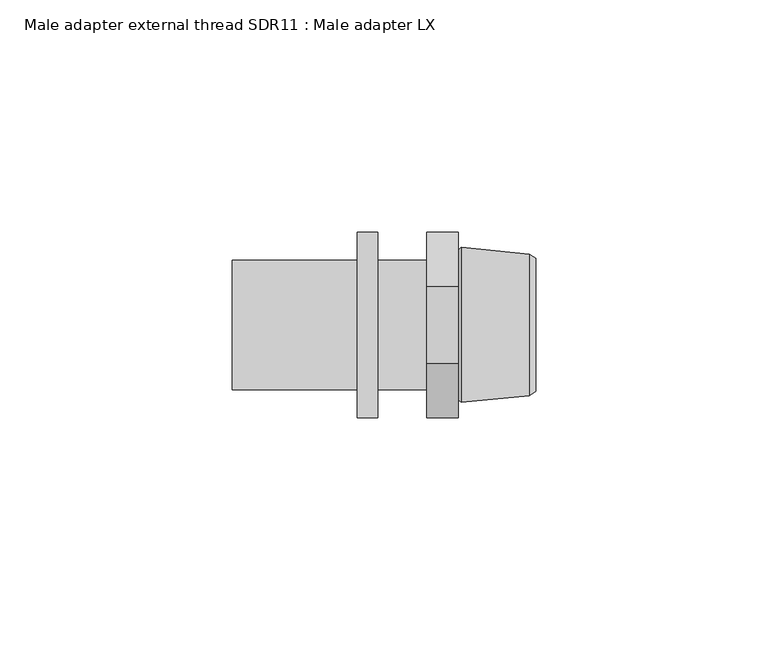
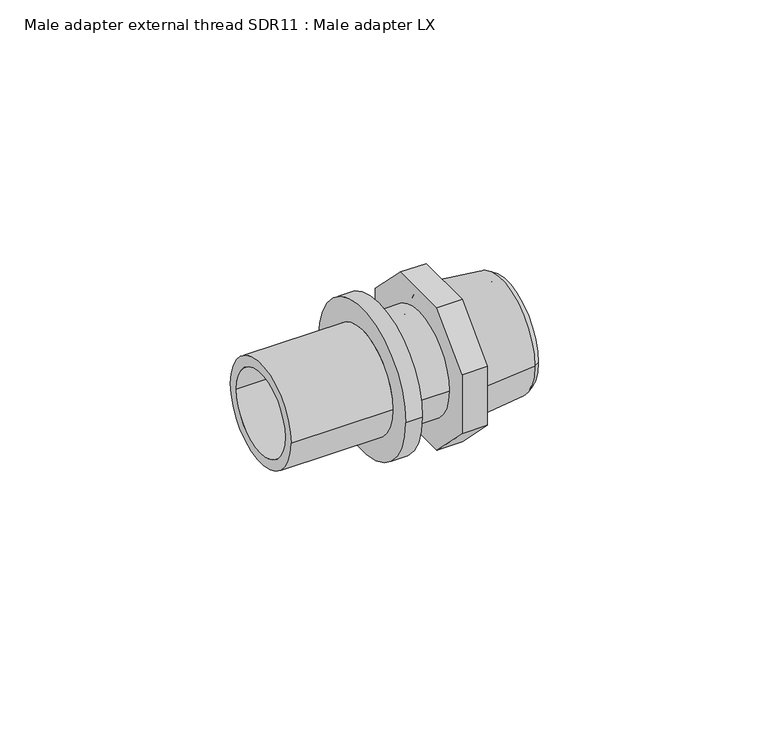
"""IFC4 building model written with IfcOpenShell, lengths in millimetres: pipe fitting geometry, Male adapter external thread SDR11 : Male adapter LX."""

from ifc_helpers import new_model, si_unit, frame, origin, place, context, project, spatial, polyline, circle_curve, outline, extrude, source, transform, mapped, element, save
from ifc_brep_helpers import plane_surface, cylinder_surface, revolved_surface, advanced_brep


def male_adapter_external_thread_sdr11_male_adapter_lx_289b96de(model_context):
    return source(origin(), model_context, "Body", "SolidModel", [
        advanced_brep(
        [(-15.0, 13.95, 0.0), (-15.0, -13.95, 0.0), (-42.0, -13.95, 0.0), (-42.0, 13.95, 0.0), (-10.6, 20.0, 0.0), (-10.6, -20.0, 0.0), (-15.0, -20.0, 0.0), (-15.0, 20.0, 0.0), (0.0, 13.95, 0.0), (0.0, -13.95, 0.0), (-10.6, -13.95, 0.0), (-10.6, 13.95, 0.0), (-42.0, 11.2, 0.0), (-42.0, -11.2, 0.0), (0.0, -11.2, 0.0), (0.0, 11.2, 0.0)],
        [
            (0, 1, circle_curve(frame((-15.0, 0.0, 0.0), z_axis=(-1.0, 0.0, 0.0), x_axis=(0.0, -1.0, 0.0)), 13.95)),
            (1, 2),
            (2, 3, circle_curve(frame((-42.0, 0.0, 0.0), z_axis=(1.0, 0.0, 0.0), x_axis=(0.0, -1.0, 0.0)), 13.95)),
            (3, 0),
            (4, 5, circle_curve(frame((-10.6, 0.0, 0.0), z_axis=(-1.0, 0.0, 0.0), x_axis=(0.0, -1.0, 0.0)), 20.0)),
            (5, 6),
            (6, 7, circle_curve(frame((-15.0, 0.0, 0.0), z_axis=(1.0, 0.0, 0.0), x_axis=(0.0, -1.0, 0.0)), 20.0)),
            (7, 4),
            (8, 9, circle_curve(frame((0.0, 0.0, 0.0), z_axis=(-1.0, 0.0, 0.0), x_axis=(0.0, -1.0, 0.0)), 13.95)),
            (9, 10),
            (10, 11, circle_curve(frame((-10.6, 0.0, 0.0), z_axis=(1.0, 0.0, 0.0), x_axis=(0.0, -1.0, 0.0)), 13.95)),
            (11, 8),
            (12, 13, circle_curve(frame((-42.0, 0.0, 0.0), z_axis=(-1.0, 0.0, 0.0), x_axis=(0.0, -1.0, 0.0)), 11.2)),
            (13, 14),
            (14, 15, circle_curve(frame((0.0, 0.0, 0.0), z_axis=(1.0, 0.0, 0.0), x_axis=(0.0, -1.0, 0.0)), 11.2)),
            (15, 12),
            (2, 3, circle_curve(frame((-42.0, 0.0, 0.0), z_axis=(-1.0, 0.0, 0.0), x_axis=(0.0, 1.0, 0.0)), 13.95)),
            (12, 13, circle_curve(frame((-42.0, 0.0, 0.0), z_axis=(1.0, 0.0, 0.0), x_axis=(0.0, 1.0, 0.0)), 11.2)),
            (1, 0, circle_curve(frame((-15.0, 0.0, 0.0), z_axis=(-1.0, 0.0, 0.0), x_axis=(0.0, 1.0, 0.0)), 13.95)),
            (6, 7, circle_curve(frame((-15.0, 0.0, 0.0), z_axis=(-1.0, 0.0, 0.0), x_axis=(0.0, 1.0, 0.0)), 20.0)),
            (5, 4, circle_curve(frame((-10.6, 0.0, 0.0), z_axis=(-1.0, 0.0, 0.0), x_axis=(0.0, 1.0, 0.0)), 20.0)),
            (10, 11, circle_curve(frame((-10.6, 0.0, 0.0), z_axis=(-1.0, 0.0, 0.0), x_axis=(0.0, 1.0, 0.0)), 13.95)),
            (9, 8, circle_curve(frame((0.0, 0.0, 0.0), z_axis=(-1.0, 0.0, 0.0), x_axis=(0.0, 1.0, 0.0)), 13.95)),
            (14, 15, circle_curve(frame((0.0, 0.0, 0.0), z_axis=(-1.0, 0.0, 0.0), x_axis=(0.0, 1.0, 0.0)), 11.2)),
        ],
        [
            cylinder_surface(frame((0.0, 0.0, 0.0), z_axis=(1.0, 0.0, 0.0), x_axis=(0.0, -1.0, 0.0)), 13.95),
            cylinder_surface(frame((0.0, 0.0, 0.0), z_axis=(1.0, 0.0, 0.0), x_axis=(0.0, -1.0, 0.0)), 20.0),
            revolved_surface(polyline([(0.0, -11.2, 0.0), (-42.0, -11.2, 0.0)]), (0.0, 0.0, 0.0), (1.0, 0.0, 0.0)),
            plane_surface(frame((-42.0, 0.0, 0.0), z_axis=(-1.0, 0.0, 0.0), x_axis=(0.0, 1.0, 0.0))),
            cylinder_surface(frame((0.0, 0.0, 0.0), z_axis=(1.0, 0.0, 0.0), x_axis=(0.0, 1.0, 0.0)), 13.95),
            plane_surface(frame((-15.0, 0.0, 0.0), z_axis=(-1.0, 0.0, 0.0), x_axis=(0.0, 1.0, 0.0))),
            cylinder_surface(frame((0.0, 0.0, 0.0), z_axis=(1.0, 0.0, 0.0), x_axis=(0.0, 1.0, 0.0)), 20.0),
            plane_surface(frame((-10.6, 0.0, 0.0), z_axis=(1.0, 0.0, 0.0), x_axis=(0.0, 1.0, 0.0))),
            plane_surface(frame((0.0, 0.0, 0.0), z_axis=(1.0, 0.0, 0.0), x_axis=(0.0, 1.0, 0.0))),
            revolved_surface(polyline([(0.0, 11.2, 0.0), (-42.0, 11.2, 0.0)]), (0.0, 0.0, 0.0), (1.0, 0.0, 0.0)),
        ],
        [
            (0, [[1, 2, 3, 4]]),
            (1, [[5, 6, 7, 8]]),
            (0, [[9, 10, 11, 12]]),
            (2, [[13, 14, 15, 16]]),
            (3, [[17, -3], [18, -13]]),
            (4, [[19, -4, -17, -2]]),
            (5, [[20, -7], [-19, -1]]),
            (6, [[21, -8, -20, -6]]),
            (7, [[-21, -5], [22, -11]]),
            (4, [[23, -12, -22, -10]]),
            (8, [[-23, -9], [24, -15]]),
            (9, [[-18, -16, -24, -14]]),
        ],
    ),
        advanced_brep(
        [(7.8032803, 12.0, 0.0), (7.8032803, -12.0, 0.0), (23.5, -12.0, 0.0), (23.5, 12.0, 0.0), (6.7, 10.8967197, 0.0), (6.7, -10.8967197, 0.0), (7.4406902, 16.7, 0.0), (7.4406902, -16.7, 0.0), (6.7, -16.1, 0.0), (6.7, 16.1, 0.0), (22.0000007, 15.25, 0.0), (22.0000007, -15.25, 0.0), (23.5, 14.3, 0.0), (23.5, -14.3, 0.0)],
        [
            (0, 1, circle_curve(frame((7.8032803, 0.0, 0.0), z_axis=(-1.0, 0.0, 0.0), x_axis=(0.0, -1.0, 0.0)), 12.0)),
            (1, 2),
            (2, 3, circle_curve(frame((23.5, 0.0, 0.0), z_axis=(1.0, 0.0, 0.0), x_axis=(0.0, -1.0, 0.0)), 12.0)),
            (3, 0),
            (4, 5, circle_curve(frame((6.7, 0.0, 0.0), z_axis=(-1.0, 0.0, 0.0), x_axis=(0.0, -1.0, 0.0)), 10.8967197)),
            (5, 1),
            (0, 4),
            (6, 7, circle_curve(frame((7.4406902, 0.0, 0.0), z_axis=(-1.0, 0.0, 0.0), x_axis=(0.0, -1.0, 0.0)), 16.7)),
            (7, 8),
            (8, 9, circle_curve(frame((6.7, 0.0, 0.0), z_axis=(1.0, 0.0, 0.0), x_axis=(0.0, -1.0, 0.0)), 16.1)),
            (9, 6),
            (10, 11, circle_curve(frame((22.0000007, 0.0, 0.0), z_axis=(-1.0, 0.0, 0.0), x_axis=(0.0, -1.0, 0.0)), 15.25)),
            (11, 7),
            (6, 10),
            (12, 13, circle_curve(frame((23.5, 0.0, 0.0), z_axis=(-1.0, 0.0, 0.0), x_axis=(0.0, -1.0, 0.0)), 14.3)),
            (13, 11),
            (10, 12),
            (1, 0, circle_curve(frame((7.8032803, 0.0, 0.0), z_axis=(-1.0, 0.0, 0.0), x_axis=(0.0, 1.0, 0.0)), 12.0)),
            (3, 2, circle_curve(frame((23.5, 0.0, 0.0), z_axis=(1.0, 0.0, 0.0), x_axis=(0.0, 1.0, 0.0)), 12.0)),
            (5, 4, circle_curve(frame((6.7, 0.0, 0.0), z_axis=(-1.0, 0.0, 0.0), x_axis=(0.0, 1.0, 0.0)), 10.8967197)),
            (8, 9, circle_curve(frame((6.7, 0.0, 0.0), z_axis=(-1.0, 0.0, 0.0), x_axis=(0.0, 1.0, 0.0)), 16.1)),
            (7, 6, circle_curve(frame((7.4406902, 0.0, 0.0), z_axis=(-1.0, 0.0, 0.0), x_axis=(0.0, 1.0, 0.0)), 16.7)),
            (11, 10, circle_curve(frame((22.0000007, 0.0, 0.0), z_axis=(-1.0, 0.0, 0.0), x_axis=(0.0, 1.0, 0.0)), 15.25)),
            (13, 12, circle_curve(frame((23.5, 0.0, 0.0), z_axis=(-1.0, 0.0, 0.0), x_axis=(0.0, 1.0, 0.0)), 14.3)),
        ],
        [
            revolved_surface(polyline([(23.5, -12.0, 0.0), (7.8032803, -12.0, 0.0)]), (0.0, 0.0, 0.0), (1.0, 0.0, 0.0)),
            revolved_surface(polyline([(7.8032803, -12.0, 0.0), (6.7, -10.8967197, 0.0)]), (0.0, 0.0, 0.0), (1.0, 0.0, 0.0)),
            revolved_surface(polyline([(6.7, -16.1, 0.0), (7.4406902, -16.7, 0.0)]), (0.0, 0.0, 0.0), (1.0, 0.0, 0.0)),
            revolved_surface(polyline([(7.4406902, -16.7, 0.0), (22.0000007, -15.25, 0.0)]), (0.0, 0.0, 0.0), (1.0, 0.0, 0.0)),
            revolved_surface(polyline([(22.0000007, -15.25, 0.0), (23.5, -14.3, 0.0)]), (0.0, 0.0, 0.0), (1.0, 0.0, 0.0)),
            revolved_surface(polyline([(23.5, 12.0, 0.0), (7.8032803, 12.0, 0.0)]), (0.0, 0.0, 0.0), (1.0, 0.0, 0.0)),
            revolved_surface(polyline([(7.8032803, 12.0, 0.0), (6.7, 10.8967197, 0.0)]), (0.0, 0.0, 0.0), (1.0, 0.0, 0.0)),
            plane_surface(frame((6.7, 0.0, 0.0), z_axis=(-1.0, 0.0, 0.0), x_axis=(0.0, 1.0, 0.0))),
            revolved_surface(polyline([(6.7, 16.1, 0.0), (7.4406902, 16.7, 0.0)]), (0.0, 0.0, 0.0), (1.0, 0.0, 0.0)),
            revolved_surface(polyline([(7.4406902, 16.7, 0.0), (22.0000007, 15.25, 0.0)]), (0.0, 0.0, 0.0), (1.0, 0.0, 0.0)),
            revolved_surface(polyline([(22.0000007, 15.25, 0.0), (23.5, 14.3, 0.0)]), (0.0, 0.0, 0.0), (1.0, 0.0, 0.0)),
            plane_surface(frame((23.5, 0.0, 0.0), z_axis=(1.0, 0.0, 0.0), x_axis=(0.0, 1.0, 0.0))),
        ],
        [
            (0, [[1, 2, 3, 4]]),
            (1, [[5, 6, -1, 7]]),
            (2, [[8, 9, 10, 11]]),
            (3, [[12, 13, -8, 14]]),
            (4, [[15, 16, -12, 17]]),
            (5, [[18, -4, 19, -2]]),
            (6, [[20, -7, -18, -6]]),
            (7, [[21, -10], [-20, -5]]),
            (8, [[22, -11, -21, -9]]),
            (9, [[23, -14, -22, -13]]),
            (10, [[24, -17, -23, -16]]),
            (11, [[-24, -15], [-19, -3]]),
        ],
    ),
        extrude(outline(polyline([(-20.0, 8.2842712), (-8.2842712, 20.0), (8.2842712, 20.0), (20.0, 8.2842712), (20.0, -8.2842712), (8.2842712, -20.0), (-8.2842712, -20.0), (-20.0, -8.2842712), (-20.0, 8.2842712)])), frame((0.0, 0.0, 0.0), z_axis=(1.0, 0.0, 0.0), x_axis=(0.0, 1.0, 0.0)), (0.0, 0.0, 1.0), 6.7),
    ])


if __name__ == "__main__":
    model = new_model("IFC4")
    model_context = context("Model", 3, world=origin())
    ifc_project = project(units=[si_unit("LENGTHUNIT", "METRE", prefix="MILLI")], contexts=[model_context])
    site = spatial("IfcSite", under=ifc_project)
    building = spatial("IfcBuilding", under=site)
    placement = place(None, origin())
    male_adapter_external_thread_sdr11_male_adapter_lx_shape = male_adapter_external_thread_sdr11_male_adapter_lx_289b96de(model_context)
    element("IfcPipeFitting", 1, ObjectType="Male adapter external thread SDR11 : Male adapter LX", at=placement, inside=building, context=model_context, shape_type="MappedRepresentation", body=[
        mapped(male_adapter_external_thread_sdr11_male_adapter_lx_shape, transform((0.0, 0.0, 0.0), x_axis=(1.0, 0.0, 0.0), y_axis=(0.0, 1.0, 0.0), z_axis=(0.0, 0.0, 1.0))),
    ])
    save(model, "model.ifc")
